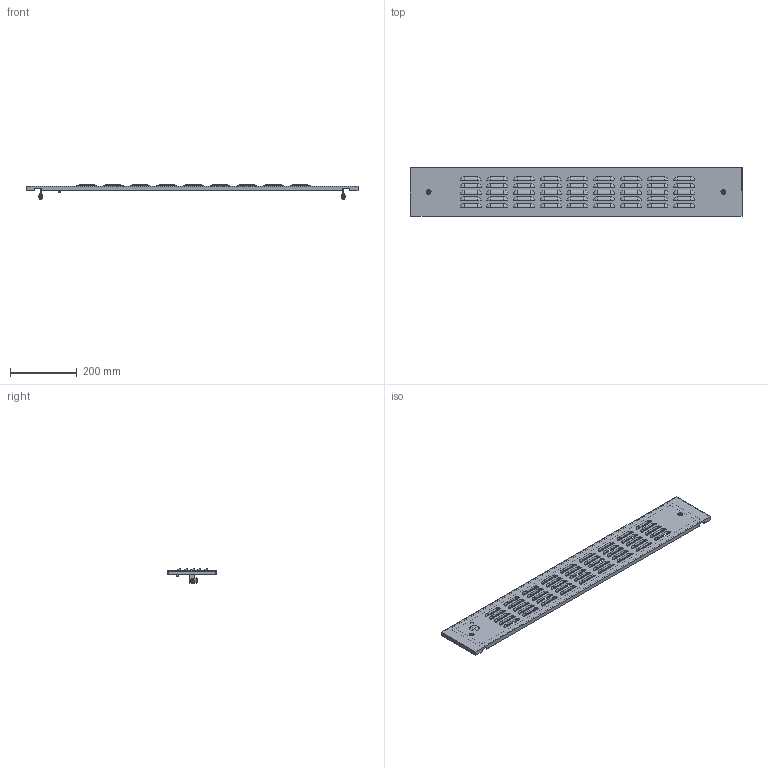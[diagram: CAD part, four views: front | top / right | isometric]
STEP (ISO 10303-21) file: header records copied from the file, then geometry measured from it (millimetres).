
FILE_DESCRIPTION (( 'STEP AP214' ), '1' );
FILE_NAME ('FO-00-PWSV-015-100 Ôàëüø-ïàíåëü âíåøíÿÿ âåíòèëèðóåìàÿ 150õ1000 ìì.STEP', '2025-08-25T06:46:11', ( '' ), ( '' ), 'SwSTEP 2.0', 'SolidWorks 2023', '' );
FILE_SCHEMA (( 'AUTOMOTIVE_DESIGN' ));
Length unit declared in the file: millimetre
Products named in the file (1): FO-00-PWSV-015-100 Фальш-панель внешняя вентилируемая 150х1000 мм
Bounding box: 995 x 146 x 43.5 mm (x, y, z)
Volume: 425919.8 mm3; surface area: 380429.6 mm2
Topology: 1 solids, 6 shells, 959 faces, 2624 edges, 1511 vertices
Faces by surface type: plane 407, cylinder 322, sphere 180, cone 34, torus 16
Entity records: 29423 total; most frequent: DIRECTION 5442, CARTESIAN_POINT 5199, ORIENTED_EDGE 4884, EDGE_CURVE 2442, AXIS2_PLACEMENT_3D 2056, VERTEX_POINT 1511, LINE 1330, VECTOR 1330
